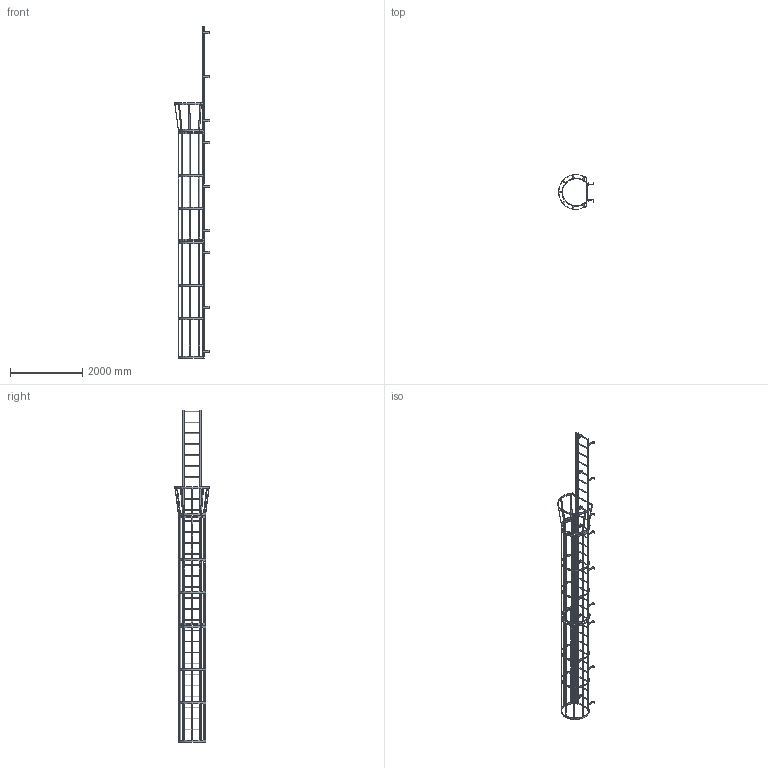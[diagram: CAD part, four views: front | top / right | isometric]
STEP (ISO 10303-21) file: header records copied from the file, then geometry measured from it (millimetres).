
FILE_DESCRIPTION(/* description */ (''),/* implementation_level */ '2;1');
FILE_NAME(/* name */ 'P:\MIKEL & KAREN\D0570195-17 F31SC SIMPLIFIED PART.stp',/* time_stamp */ '2018-07-03T08:10:41-04:00',/* author */ ('stephanie'),/* organization */ (''),/* preprocessor_version */ 'ST-DEVELOPER v16.1',/* originating_system */ 'Autodesk Inventor 2016',/* authorisation */ '');
FILE_SCHEMA (('AUTOMOTIVE_DESIGN { 1 0 10303 214 3 1 1 }'));
Length unit declared in the file: centimetre
Products named in the file (1): D0570195-17 F31SC SIMPLIFIED PART
Bounding box: 974.15 x 977.88 x 9220.2 mm (x, y, z)
Volume: 31802205.5 mm3; surface area: 11264291.8 mm2
Topology: 42 solids, 42 shells, 961 faces, 2911 edges, 1886 vertices
Faces by surface type: plane 644, cylinder 317
Full cylindrical faces by diameter (mm): 14.287 x22, 19.05 x31, 22.225 x62
Entity records: 32943 total; most frequent: ORIENTED_EDGE 5592, CARTESIAN_POINT 5476, DIRECTION 5434, EDGE_CURVE 2712, LINE 1914, VECTOR 1914, VERTEX_POINT 1802, AXIS2_PLACEMENT_3D 1760
